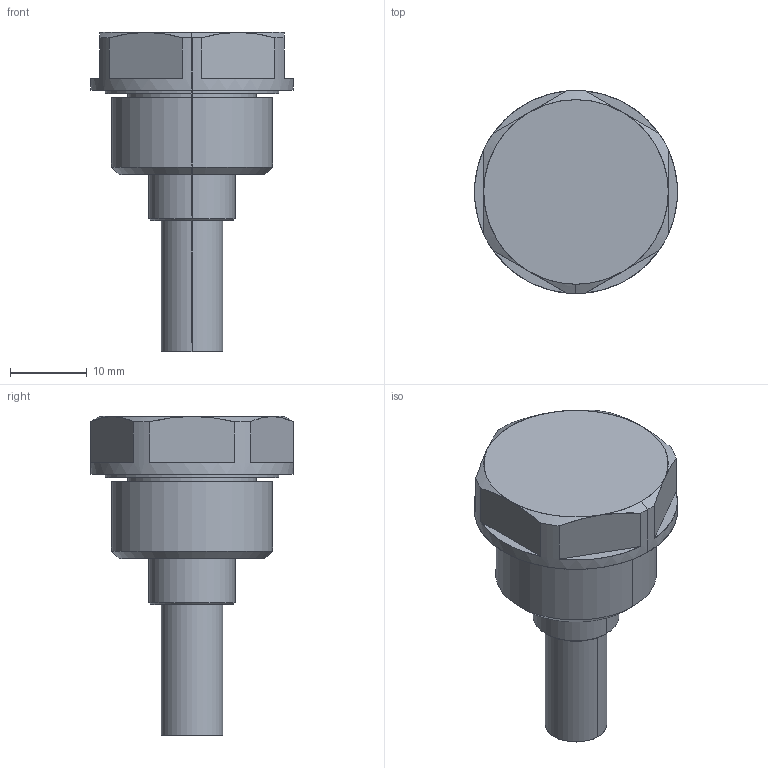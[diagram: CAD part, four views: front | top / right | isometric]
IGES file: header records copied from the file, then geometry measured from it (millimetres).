
Start section: SolidWorks IGES file using analytic representation for surfaces
Global section: file name: X:\11_SW2020-Inv2020\00_全2021-11新製品まで\m\MPN-1_2HT\mpn-1_2ht.IGS; native system: SolidWorks 2020; preprocessor: SolidWorks 2020; author: ImaoCorp; date: 211026.111723; units: millimetre
Bounding box: 26.4 x 26.4 x 41.5 mm (x, y, z)
Surface area: 3305.9 mm2 (no closed solid volume)
Topology: 0 solids, 0 shells, 45 faces, 721 edges, 721 vertices
Faces by surface type: revolution 25, bspline 20
